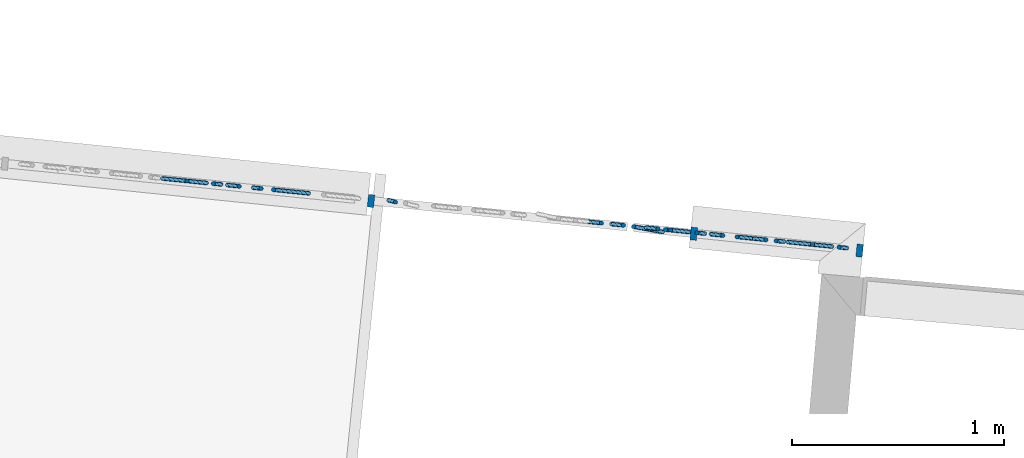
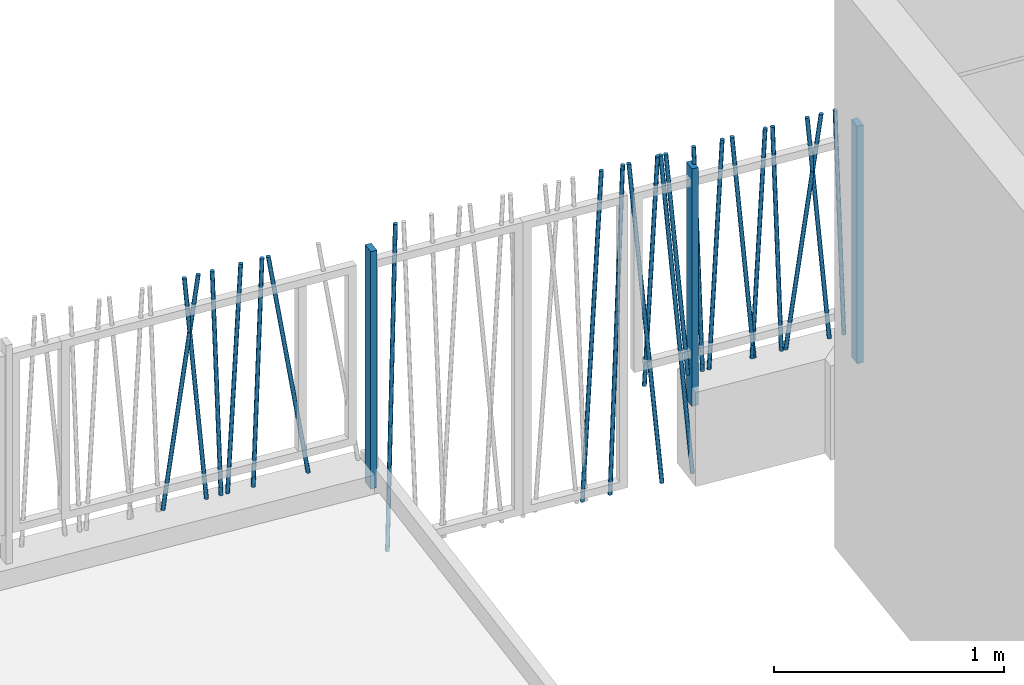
# One storey, part 17 of 171: 24 columns.
"""IFC2X3 building model written with IfcOpenShell, lengths in millimetres."""

from ifc_helpers import new_model, entity, si_unit, converted_unit, derived_unit, money_unit, direction, frame, origin_with_axes, origin_2d_with_axis, place, context, subcontext, project, spatial, rectangle, circle, extrude, clip, halfspace, material, type_object, element, save


model = new_model("IFC2X3")

# Units and contexts
model_context = context("Model", 3, precision=0.01, world=origin_with_axes(), true_north=direction((0.0, 1.0)))
body_context = subcontext(model_context, "Body", "Model", "MODEL_VIEW")
ifc_project = project(units=[si_unit("LENGTHUNIT", "METRE", prefix="MILLI"), si_unit("AREAUNIT", "SQUARE_METRE"), si_unit("VOLUMEUNIT", "CUBIC_METRE"), converted_unit("PLANEANGLEUNIT", "DEGREE", entity("IfcPlaneAngleMeasure", 0.0174532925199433), si_unit("PLANEANGLEUNIT", "RADIAN"), dimensions=[0, 0, 0, 0, 0, 0, 0]), money_unit("USD"), converted_unit("TIMEUNIT", "Year", entity("IfcTimeMeasure", 31557600.0), si_unit("TIMEUNIT", "SECOND"), dimensions=[0, 0, 1, 0, 0, 0, 0]), si_unit("MASSUNIT", "GRAM", prefix="KILO"), si_unit("THERMODYNAMICTEMPERATUREUNIT", "DEGREE_CELSIUS"), si_unit("LUMINOUSINTENSITYUNIT", "LUMEN"), si_unit("ENERGYUNIT", "JOULE", prefix="MEGA"), derived_unit("THERMALCONDUCTANCEUNIT", [(si_unit("POWERUNIT", "WATT"), 1), (si_unit("LENGTHUNIT", "METRE"), -1), (si_unit("THERMODYNAMICTEMPERATUREUNIT", "KELVIN"), -1)]), derived_unit("SPECIFICHEATCAPACITYUNIT", [(si_unit("ENERGYUNIT", "JOULE"), 1), (si_unit("MASSUNIT", "GRAM", prefix="KILO"), -1), (si_unit("THERMODYNAMICTEMPERATUREUNIT", "KELVIN"), -1)]), derived_unit("MASSDENSITYUNIT", [(si_unit("MASSUNIT", "GRAM", prefix="KILO"), 1), (si_unit("VOLUMEUNIT", "CUBIC_METRE"), -1)])], contexts=[model_context])

# Site, building, storey
site_placement = place(None, origin_with_axes())
site = spatial("IfcSite", under=ifc_project, at=site_placement, Name="Site", CompositionType="ELEMENT")
building_placement = place(site_placement, origin_with_axes())
building = spatial("IfcBuilding", under=site, at=building_placement, Name="Bâtiment", CompositionType="ELEMENT")
storey_placement = place(building_placement, frame((0.0, 0.0, 3000.0), z_axis=(0.0, 0.0, 1.0), x_axis=(1.0, 0.0, 0.0)))
storey = spatial("IfcBuildingStorey", under=building, at=storey_placement, Name="rdc", CompositionType="ELEMENT", Elevation=3000.0)

# Columns
ifc_material = material(Name="Empty Fill 2959611567")
column_type_1 = type_object("IfcColumnType", Name="Empty Fill 2959611567 D20", PredefinedType="NOTDEFINED")
column_1_placement = place(storey_placement, frame((2248295.03911568, -607186.0404146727, 149.9999999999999), z_axis=(0.0, 0.0, 1.0), x_axis=(-0.101103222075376, -0.9948759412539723, 0.0)))
element("IfcColumn", 1, at=column_1_placement, inside=storey, type_object=column_type_1, material=ifc_material, Name="Pilier-019", context=body_context, shape_type="Clipping", body=[
    clip(clip(extrude(circle(Radius=10.0, at=origin_2d_with_axis()), frame((0.0, -0.02437434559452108, -0.6979899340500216), z_axis=(0.0, -0.03489949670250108, -0.9993908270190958), x_axis=(-1.0, 0.0, 0.0)), (0.0, 0.0, -1.0), 1202.128283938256), halfspace(frame((0.0, 0.0, 0.0), z_axis=(0.0, 0.0, 1.0), x_axis=(0.0, -1.0, 0.0)), True)), halfspace(frame((0.0, 0.0, 1200.0), z_axis=(0.0, 0.0, -1.0), x_axis=(0.0, 1.0, 0.0)), True)),
])
column_2_placement = place(storey_placement, frame((2248142.200182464, -607170.5083186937, 149.9999999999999), z_axis=(0.0, 0.0, 1.0), x_axis=(0.1011032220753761, 0.9948759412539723, 0.0)))
element("IfcColumn", 2, at=column_2_placement, inside=storey, type_object=column_type_1, material=ifc_material, Name="Pilier-019", context=body_context, shape_type="Clipping", body=[
    clip(clip(extrude(circle(Radius=10.0, at=origin_2d_with_axis()), frame((0.0, -0.02437434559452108, -0.6979899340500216), z_axis=(0.0, 0.03489949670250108, 0.9993908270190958), x_axis=(1.0, 0.0, 0.0)), (0.0, 0.0, 1.0), 1202.128283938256), halfspace(frame((0.0, 0.0, 0.0), z_axis=(0.0, 0.0, 1.0), x_axis=(0.0, -1.0, 0.0)), True)), halfspace(frame((0.0, 0.0, 1200.0), z_axis=(0.0, 0.0, -1.0), x_axis=(0.0, 1.0, 0.0)), True)),
])
column_3_placement = place(storey_placement, frame((2248173.332988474, -607173.6721573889, 149.9999999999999), z_axis=(0.0, 0.0, 1.0), x_axis=(-0.101103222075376, -0.9948759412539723, 0.0)))
element("IfcColumn", 3, at=column_3_placement, inside=storey, type_object=column_type_1, material=ifc_material, Name="Pilier-019", context=body_context, shape_type="Clipping", body=[
    clip(clip(extrude(circle(Radius=10.0, at=origin_2d_with_axis()), frame((0.0, -0.05485622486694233, -1.046719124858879), z_axis=(0.0, -0.05233595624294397, -0.9986295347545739), x_axis=(-1.0, 0.0, 0.0)), (0.0, 0.0, -1.0), 1203.743126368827), halfspace(frame((0.0, 0.0, 0.0), z_axis=(0.0, 0.0, 1.0), x_axis=(0.0, -1.0, 0.0)), True)), halfspace(frame((0.0, 0.0, 1200.0), z_axis=(0.0, 0.0, -1.0), x_axis=(0.0, 1.0, 0.0)), True)),
])
column_4_placement = place(storey_placement, frame((2248555.038210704, -607212.4625494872, 149.9999999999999), z_axis=(0.0, 0.0, 1.0), x_axis=(0.1011032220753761, 0.9948759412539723, 0.0)))
element("IfcColumn", 4, at=column_4_placement, inside=storey, type_object=column_type_1, material=ifc_material, Name="Pilier-019", context=body_context, shape_type="Clipping", body=[
    clip(clip(extrude(circle(Radius=10.0, at=origin_2d_with_axis()), frame((0.0, -0.4955357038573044, -3.128689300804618), z_axis=(0.0, 0.1564344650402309, 0.9876883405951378), x_axis=(1.0, 0.0, 0.0)), (0.0, 0.0, 1.0), 1221.293528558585), halfspace(frame((0.0, 0.0, 0.0), z_axis=(0.0, 0.0, 1.0), x_axis=(0.0, -1.0, 0.0)), True)), halfspace(frame((0.0, 0.0, 1200.0), z_axis=(0.0, 0.0, -1.0), x_axis=(0.0, 1.0, 0.0)), True)),
])
column_5_placement = place(storey_placement, frame((2248073.091774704, -607163.4852493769, 149.9999999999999), z_axis=(0.0, 0.0, 1.0), x_axis=(0.1011032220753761, 0.9948759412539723, 0.0)))
element("IfcColumn", 5, at=column_5_placement, inside=storey, type_object=column_type_1, material=ifc_material, Name="Pilier-019", context=body_context, shape_type="Clipping", body=[
    clip(clip(extrude(circle(Radius=10.0, at=origin_2d_with_axis()), frame((0.0, -0.152502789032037, -1.743114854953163), z_axis=(0.0, 0.08715574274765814, 0.9961946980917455), x_axis=(1.0, 0.0, 0.0)), (0.0, 0.0, 1.0), 1208.083351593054), halfspace(frame((0.0, 0.0, 0.0), z_axis=(0.0, 0.0, 1.0), x_axis=(0.0, -1.0, 0.0)), True)), halfspace(frame((0.0, 0.0, 1200.0), z_axis=(0.0, 0.0, -1.0), x_axis=(0.0, 1.0, 0.0)), True)),
])
column_6_placement = place(storey_placement, frame((2247867.01276903, -607142.5426869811, 149.9999999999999), z_axis=(0.0, 0.0, 1.0), x_axis=(-0.101103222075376, -0.9948759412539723, 0.0)))
element("IfcColumn", 6, at=column_6_placement, inside=storey, type_object=column_type_1, material=ifc_material, Name="Pilier-019", context=body_context, shape_type="Clipping", body=[
    clip(clip(extrude(circle(Radius=10.0, at=origin_2d_with_axis()), frame((0.0, -0.3911900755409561, -2.78346201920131), z_axis=(0.0, -0.1391731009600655, -0.9902680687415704), x_axis=(-1.0, 0.0, 0.0)), (0.0, 0.0, -1.0), 1217.414720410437), halfspace(frame((0.0, 0.0, 0.0), z_axis=(0.0, 0.0, 1.0), x_axis=(0.0, -1.0, 0.0)), True)), halfspace(frame((0.0, 0.0, 1200.0), z_axis=(0.0, 0.0, -1.0), x_axis=(0.0, 1.0, 0.0)), True)),
])
column_7_placement = place(storey_placement, frame((2250658.280547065, -607426.2023417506, 149.9999999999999), z_axis=(0.0, 0.0, 1.0), x_axis=(-0.101103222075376, -0.9948759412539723, 0.0)))
element("IfcColumn", 7, at=column_7_placement, inside=storey, type_object=column_type_1, material=ifc_material, Name="Pilier-019", context=body_context, shape_type="Clipping", body=[
    clip(clip(extrude(circle(Radius=10.0, at=origin_2d_with_axis()), frame((0.0, -0.05485622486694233, -1.046719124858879), z_axis=(0.0, -0.05233595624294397, -0.9986295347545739), x_axis=(-1.0, 0.0, 0.0)), (0.0, 0.0, -1.0), 1203.743126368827), halfspace(frame((0.0, 0.0, 0.0), z_axis=(0.0, 0.0, 1.0), x_axis=(0.0, -1.0, 0.0)), True)), halfspace(frame((0.0, 0.0, 1200.0), z_axis=(0.0, 0.0, -1.0), x_axis=(0.0, 1.0, 0.0)), True)),
])
for number, where, z_axis, x_axis, name in (
    (8, (2251093.595216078, -607470.4407375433, 149.9999999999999), (0.0, 0.0, 1.0), (0.1011032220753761, 0.9948759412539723, 0.0), "Pilier-019"),
    (9, (2250797.381719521, -607440.3383522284, 149.9999999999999), (0.0, 0.0, 1.0), (0.1011032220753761, 0.9948759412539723, 0.0), "Pilier-019"),
):
    element("IfcColumn", number, at=place(storey_placement, frame(where, z_axis=z_axis, x_axis=x_axis)), inside=storey, type_object=column_type_1, material=ifc_material, Name=name, context=body_context, shape_type="Clipping", body=[
        clip(clip(extrude(circle(Radius=10.0, at=origin_2d_with_axis()), frame((0.0, -0.02437434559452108, -0.6979899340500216), z_axis=(0.0, 0.03489949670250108, 0.9993908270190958), x_axis=(1.0, 0.0, 0.0)), (0.0, 0.0, 1.0), 1202.128283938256), halfspace(frame((0.0, 0.0, 0.0), z_axis=(0.0, 0.0, 1.0), x_axis=(0.0, -1.0, 0.0)), True)), halfspace(frame((0.0, 0.0, 1200.0), z_axis=(0.0, 0.0, -1.0), x_axis=(0.0, 1.0, 0.0)), True)),
    ])
for number, where, z_axis, x_axis, name in (
    (10, (2250454.742952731, -607405.5180476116, 149.9999999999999), (0.0, 0.0, 1.0), (-0.101103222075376, -0.9948759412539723, 0.0), "Pilier-019"),
    (11, (2250148.422733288, -607374.388577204, 149.9999999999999), (0.0, 0.0, 1.0), (-0.101103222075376, -0.9948759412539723, 0.0), "Pilier-019"),
):
    element("IfcColumn", number, at=place(storey_placement, frame(where, z_axis=z_axis, x_axis=x_axis)), inside=storey, type_object=column_type_1, material=ifc_material, Name=name, context=body_context, shape_type="Clipping", body=[
        clip(clip(extrude(circle(Radius=10.0, at=origin_2d_with_axis()), frame((0.0, -0.05485622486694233, -1.046719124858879), z_axis=(0.0, -0.05233595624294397, -0.9986295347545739), x_axis=(-1.0, 0.0, 0.0)), (0.0, 0.0, -1.0), 1203.743126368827), halfspace(frame((0.0, 0.0, 0.0), z_axis=(0.0, 0.0, 1.0), x_axis=(0.0, -1.0, 0.0)), True)), halfspace(frame((0.0, 0.0, 1200.0), z_axis=(0.0, 0.0, -1.0), x_axis=(0.0, 1.0, 0.0)), True)),
    ])
column_8_placement = place(storey_placement, frame((2250668.134436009, -607427.2037328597, 149.9999999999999), z_axis=(0.0, 0.0, 1.0), x_axis=(0.1011032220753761, 0.9948759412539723, 0.0)))
element("IfcColumn", 12, at=column_8_placement, inside=storey, type_object=column_type_1, material=ifc_material, Name="Pilier-019", context=body_context, shape_type="Clipping", body=[
    clip(clip(extrude(circle(Radius=10.0, at=origin_2d_with_axis()), frame((0.0, -0.152502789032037, -1.743114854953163), z_axis=(0.0, 0.08715574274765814, 0.9961946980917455), x_axis=(1.0, 0.0, 0.0)), (0.0, 0.0, 1.0), 1208.083351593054), halfspace(frame((0.0, 0.0, 0.0), z_axis=(0.0, 0.0, 1.0), x_axis=(0.0, -1.0, 0.0)), True)), halfspace(frame((0.0, 0.0, 1200.0), z_axis=(0.0, 0.0, -1.0), x_axis=(0.0, 1.0, 0.0)), True)),
])
column_9_placement = place(storey_placement, frame((2250818.407802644, -607442.4751058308, 149.9999999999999), z_axis=(0.0, 0.0, 1.0), x_axis=(-0.101103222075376, -0.9948759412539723, 0.0)))
element("IfcColumn", 13, at=column_9_placement, inside=storey, type_object=column_type_1, material=ifc_material, Name="Pilier-019", context=body_context, shape_type="Clipping", body=[
    clip(clip(extrude(circle(Radius=10.0, at=origin_2d_with_axis()), frame((0.0, -0.3911900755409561, -2.78346201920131), z_axis=(0.0, -0.1391731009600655, -0.9902680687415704), x_axis=(-1.0, 0.0, 0.0)), (0.0, 0.0, -1.0), 1217.414720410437), halfspace(frame((0.0, 0.0, 0.0), z_axis=(0.0, 0.0, 1.0), x_axis=(0.0, -1.0, 0.0)), True)), halfspace(frame((0.0, 0.0, 1200.0), z_axis=(0.0, 0.0, -1.0), x_axis=(0.0, 1.0, 0.0)), True)),
])
column_10_placement = place(storey_placement, frame((2251024.486808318, -607463.4176682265, 149.9999999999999), z_axis=(0.0, 0.0, 1.0), x_axis=(0.1011032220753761, 0.9948759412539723, 0.0)))
element("IfcColumn", 14, at=column_10_placement, inside=storey, type_object=column_type_1, material=ifc_material, Name="Pilier-019", context=body_context, shape_type="Clipping", body=[
    clip(clip(extrude(circle(Radius=10.0, at=origin_2d_with_axis()), frame((0.0, -0.152502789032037, -1.743114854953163), z_axis=(0.0, 0.08715574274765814, 0.9961946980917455), x_axis=(1.0, 0.0, 0.0)), (0.0, 0.0, 1.0), 1208.083351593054), halfspace(frame((0.0, 0.0, 0.0), z_axis=(0.0, 0.0, 1.0), x_axis=(0.0, -1.0, 0.0)), True)), halfspace(frame((0.0, 0.0, 1200.0), z_axis=(0.0, 0.0, -1.0), x_axis=(0.0, 1.0, 0.0)), True)),
])
column_11_placement = place(storey_placement, frame((2250423.610146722, -607402.3542089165, 149.9999999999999), z_axis=(0.0, 0.0, 1.0), x_axis=(0.1011032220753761, 0.9948759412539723, 0.0)))
element("IfcColumn", 15, at=column_11_placement, inside=storey, type_object=column_type_1, material=ifc_material, Name="Pilier-019", context=body_context, shape_type="Clipping", body=[
    clip(clip(extrude(circle(Radius=10.0, at=origin_2d_with_axis()), frame((0.0, -0.02437434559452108, -0.6979899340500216), z_axis=(0.0, 0.03489949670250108, 0.9993908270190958), x_axis=(1.0, 0.0, 0.0)), (0.0, 0.0, 1.0), 1202.128283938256), halfspace(frame((0.0, 0.0, 0.0), z_axis=(0.0, 0.0, 1.0), x_axis=(0.0, -1.0, 0.0)), True)), halfspace(frame((0.0, 0.0, 1200.0), z_axis=(0.0, 0.0, -1.0), x_axis=(0.0, 1.0, 0.0)), True)),
])
column_12_placement = place(storey_placement, frame((2250354.501738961, -607395.3311395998, 149.9999999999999), z_axis=(0.0, 0.0, 1.0), x_axis=(0.1011032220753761, 0.9948759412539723, 0.0)))
element("IfcColumn", 16, at=column_12_placement, inside=storey, type_object=column_type_1, material=ifc_material, Name="Pilier-019", context=body_context, shape_type="Clipping", body=[
    clip(clip(extrude(circle(Radius=10.0, at=origin_2d_with_axis()), frame((0.0, -0.152502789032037, -1.743114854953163), z_axis=(0.0, 0.08715574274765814, 0.9961946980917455), x_axis=(1.0, 0.0, 0.0)), (0.0, 0.0, 1.0), 1208.083351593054), halfspace(frame((0.0, 0.0, 0.0), z_axis=(0.0, 0.0, 1.0), x_axis=(0.0, -1.0, 0.0)), True)), halfspace(frame((0.0, 0.0, 1200.0), z_axis=(0.0, 0.0, -1.0), x_axis=(0.0, 1.0, 0.0)), True)),
])
column_13_placement = place(storey_placement, frame((2249985.585379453, -607357.8404022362, -379.1802337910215), z_axis=(0.0, 0.0, 1.0), x_axis=(-0.101103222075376, -0.9948759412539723, 0.0)))
element("IfcColumn", 17, at=column_13_placement, inside=storey, type_object=column_type_1, material=ifc_material, Name="Pilier-019", context=body_context, shape_type="Clipping", body=[
    clip(clip(extrude(circle(Radius=10.0, at=origin_2d_with_axis()), frame((0.0, -0.02437434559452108, -0.6979899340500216), z_axis=(0.0, -0.03489949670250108, -0.9993908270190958), x_axis=(-1.0, 0.0, 0.0)), (0.0, 0.0, -1.0), 1731.631076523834), halfspace(frame((0.0, 0.0, 0.0), z_axis=(0.0, 0.0, 1.0), x_axis=(0.0, -1.0, 0.0)), True)), halfspace(frame((0.0, 0.0, 1729.180233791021), z_axis=(0.0, 0.0, -1.0), x_axis=(0.0, 1.0, 0.0)), True)),
])
column_14_placement = place(storey_placement, frame((2249854.672889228, -607344.5365579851, -379.1802337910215), z_axis=(0.0, 0.0, 1.0), x_axis=(-0.101103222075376, -0.9948759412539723, 0.0)))
element("IfcColumn", 18, at=column_14_placement, inside=storey, type_object=column_type_1, material=ifc_material, Name="Pilier-019", context=body_context, shape_type="Clipping", body=[
    clip(clip(extrude(circle(Radius=10.0, at=origin_2d_with_axis()), frame((0.0, -0.05485622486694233, -1.046719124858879), z_axis=(0.0, -0.05233595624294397, -0.9986295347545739), x_axis=(-1.0, 0.0, 0.0)), (0.0, 0.0, -1.0), 1733.64957853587), halfspace(frame((0.0, 0.0, 0.0), z_axis=(0.0, 0.0, 1.0), x_axis=(0.0, -1.0, 0.0)), True)), halfspace(frame((0.0, 0.0, 1729.180233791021), z_axis=(0.0, 0.0, -1.0), x_axis=(0.0, 1.0, 0.0)), True)),
])
column_15_placement = place(storey_placement, frame((2250224.668691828, -607394.6047188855, -379.1802337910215), z_axis=(0.0, 0.0, 1.0), x_axis=(0.1817804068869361, 0.9833391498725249, 0.0)))
element("IfcColumn", 19, at=column_15_placement, inside=storey, type_object=column_type_1, material=ifc_material, Name="Pilier-019", context=body_context, shape_type="Clipping", body=[
    clip(clip(extrude(circle(Radius=10.0, at=origin_2d_with_axis()), frame((0.0, -0.1546010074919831, -1.75501923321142), z_axis=(0.0, 0.087750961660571, 0.9961424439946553), x_axis=(1.0, 0.0, 0.0)), (0.0, 0.0, 1.0), 1739.400105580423), halfspace(frame((0.0, 0.0, 0.0), z_axis=(0.0, 0.0, 1.0), x_axis=(0.0, -1.0, 0.0)), True)), halfspace(frame((0.0, 0.0, 1729.180233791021), z_axis=(0.0, 0.0, -1.0), x_axis=(0.0, 1.0, 0.0)), True)),
])
column_16_placement = place(storey_placement, frame((2248933.796646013, -607245.3205589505, -379.1802337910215), z_axis=(0.0, 0.0, 1.0), x_axis=(-0.2550918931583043, -0.9669168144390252, 0.0)))
element("IfcColumn", 20, at=column_16_placement, inside=storey, type_object=column_type_1, material=ifc_material, Name="Pilier-019", context=body_context, shape_type="Clipping", body=[
    clip(clip(extrude(circle(Radius=10.0, at=origin_2d_with_axis()), frame((0.0, -0.00862709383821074, -0.4153368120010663), z_axis=(0.0, -0.02076684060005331, -0.9997843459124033), x_axis=(-1.0, 0.0, 0.0)), (0.0, 0.0, -1.0), 1730.384071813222), halfspace(frame((0.0, 0.0, 0.0), z_axis=(0.0, 0.0, 1.0), x_axis=(0.0, -1.0, 0.0)), True)), halfspace(frame((0.0, 0.0, 1729.180233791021), z_axis=(0.0, 0.0, -1.0), x_axis=(0.0, 1.0, 0.0)), True)),
])
column_17_placement = place(storey_placement, frame((2250375.938250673, -607397.5096025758, -379.1802337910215), z_axis=(0.0, 0.0, 1.0), x_axis=(0.1011032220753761, 0.9948759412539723, 0.0)))
element("IfcColumn", 21, at=column_17_placement, inside=storey, type_object=column_type_1, material=ifc_material, Name="Pilier-019", context=body_context, shape_type="Clipping", body=[
    clip(clip(extrude(circle(Radius=10.0, at=origin_2d_with_axis()), frame((0.0, -0.152502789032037, -1.743114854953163), z_axis=(0.0, 0.08715574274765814, 0.9961946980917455), x_axis=(1.0, 0.0, 0.0)), (0.0, 0.0, 1.0), 1739.284967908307), halfspace(frame((0.0, 0.0, 0.0), z_axis=(0.0, 0.0, 1.0), x_axis=(0.0, -1.0, 0.0)), True)), halfspace(frame((0.0, 0.0, 1729.180233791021), z_axis=(0.0, 0.0, -1.0), x_axis=(0.0, 1.0, 0.0)), True)),
])
column_type_2 = type_object("IfcColumnType", Name="Empty Fill 2959611567 30 x 60", PredefinedType="NOTDEFINED")
for number, where, z_axis, x_axis, name in (
    (22, (2248850.006077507, -607248.4955496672, 0.0), (0.0, 0.0, 1.0), (0.9948759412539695, -0.1011032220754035, 0.0), "Pilier-019"),
    (23, (2250372.166341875, -607403.1834869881, 0.0), (0.0, 0.0, 1.0), (0.9948759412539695, -0.1011032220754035, 0.0), "Pilier-019"),
    (24, (2251154.79004556, -607482.7167984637, 0.0), (0.0, 0.0, 1.0), (0.9948759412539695, -0.1011032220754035, 0.0), "Pilier-019"),
):
    element("IfcColumn", number, at=place(storey_placement, frame(where, z_axis=z_axis, x_axis=x_axis)), inside=storey, type_object=column_type_2, material=ifc_material, Name=name, context=body_context, shape_type="SweptSolid", body=[
        extrude(rectangle(XDim=30.0, YDim=60.0, at=origin_2d_with_axis()), origin_with_axes(), (0.0, 0.0, 1.0), 1260.0),
    ])

save(model, "model.ifc")
